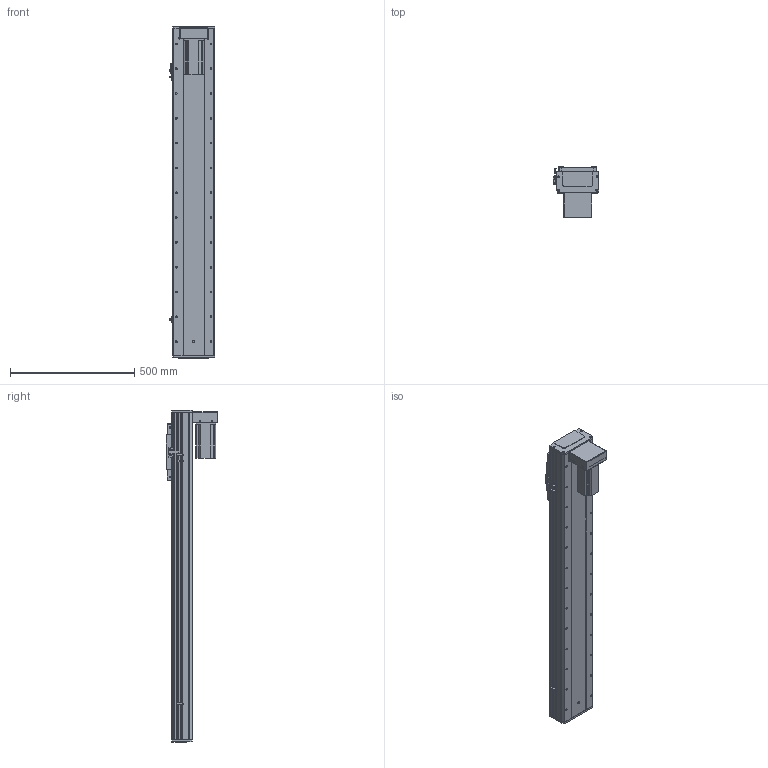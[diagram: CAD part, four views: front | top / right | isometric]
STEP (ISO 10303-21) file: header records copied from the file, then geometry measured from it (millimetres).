
FILE_DESCRIPTION (( 'STEP AP203' ), '1' );
FILE_NAME ('RY170F-L2010-300-BK.SLDASM_1000.step', '2021-03-02T08:56:14', ( '盈信电脑' ), ( '东莞市道滘镇水果街19号' ), 'SwSTEP 2.0', 'SolidWorks 2012', '' );
FILE_SCHEMA (( 'CONFIG_CONTROL_DESIGN' ));
Length unit declared in the file: millimetre
Products named in the file (20): RY170F-L2010-300-BK.SLDASM_1000; RY170狟殏詩湍假蚾輸; RY170F-狟殏萇儂假蚾啣(750W); RY170F狟殏萇儂欶; 怢湛750W萇儂ㄗ80遺ㄘ; 侐源滅袉蝶; RY170F俋离覜茼え; RY170F-詩湍揤踡輸; RY170F-揤踡謫假蚾粣; 滅袉蝶18-24; 覜茼ん672; RY100F-詩湍揤踡謫; RY170F-綴裔啣; 滅袉蝶18-10; RY170F-佪裝臏賑輸20蹟譫; RY170F-300眻蟀倰第菁釱-BK_1000; RY170F-丝杆铝滑块连接板; RY170F-300眻蟀祥凄詩湍-MK_1000; RY170F-300眻蟀倰第奻裔啣-BK_1000; RY170F-滅鳥奻裔
Assembly tree (25 placements, depth 2):
  RY170F-L2010-300-BK.SLDASM_1000
    RY170F-300眻蟀祥凄詩湍-MK_1000
    RY170F-300眻蟀倰第奻裔啣-BK_1000  x2
    RY170F-滅鳥奻裔
    RY170F-300眻蟀倰第菁釱-BK_1000
    RY170F-佪裝臏賑輸20蹟譫
    RY170F-丝杆铝滑块连接板
    滅袉蝶18-10
    RY100F-詩湍揤踡謫
    RY170F-綴裔啣  x2
    覜茼ん672  x3
    RY170F俋离覜茼え
    RY170F-揤踡謫假蚾粣
    RY170F-詩湍揤踡輸  x2
    滅袉蝶18-24
    侐源滅袉蝶  x2
    RY170F-狟殏萇儂假蚾啣(750W)
    怢湛750W萇儂ㄗ80遺ㄘ
    RY170F狟殏萇儂欶
    RY170狟殏詩湍假蚾輸
Bounding box: 183.7 x 208 x 1338 mm (x, y, z)
Volume: 7479303.6 mm3; surface area: 2483575.7 mm2
Topology: 25 solids, 25 shells, 1902 faces, 5253 edges, 3322 vertices
Faces by surface type: cylinder 912, plane 762, cone 224, bspline 4
Entity records: 53180 total; most frequent: CARTESIAN_POINT 10550, DIRECTION 8678, ORIENTED_EDGE 8214, EDGE_CURVE 4107, AXIS2_PLACEMENT_3D 3146, VERTEX_POINT 2678, LINE 2386, VECTOR 2386
